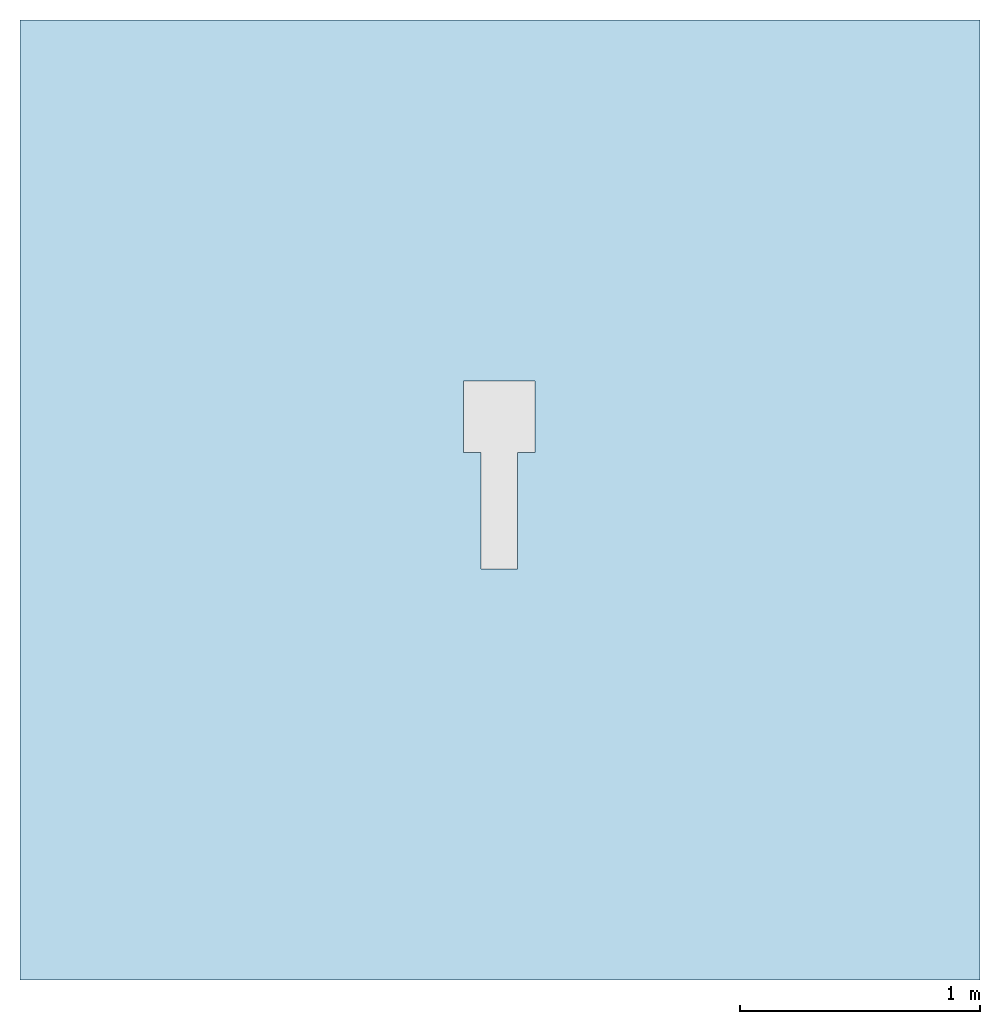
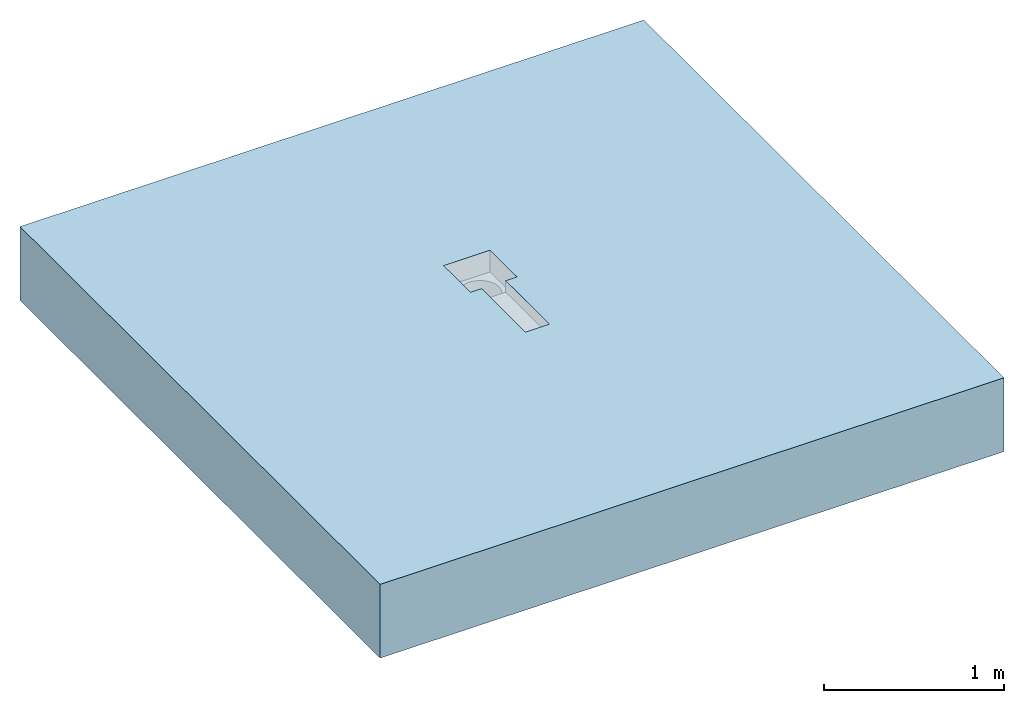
# One storey, incomplete: 1 slab, 1 opening.
"""IFC2X3 building model written with IfcOpenShell, lengths in millimetres."""

import ifcopenshell
import ifcopenshell.guid

model = None  # the IFC model being written
_history = None  # IfcOwnerHistory: only IFC2X3 demands one
_inside = {}  # id of a spatial element -> (the spatial element, [elements in it])
_under = {}  # id of a project, library or spatial element -> (it, [spatial elements below it])
_declared = {}  # id of a project -> (the project, [libraries it declares])
_typed = {}  # id of a type object -> (the type object, [elements of that type])
_made_of = {}  # id of a material, layer set ... -> (it, [elements and type objects made of it])


def new_model(schema):
    """Start an empty IFC model of exactly this schema.

    Asked for "IFC4X3", IfcOpenShell would pick the latest addendum, in which some entities
    have other attributes; the version numbers below select the first issue.
    IFC2X3 requires an IfcOwnerHistory on every rooted entity: one is made here for all.
    """
    global model, _history
    if schema == "IFC4X3":
        model = ifcopenshell.file(schema_version=(4, 3, 0, 0))
    else:
        model = ifcopenshell.file(schema=schema)
    _inside.clear()
    _under.clear()
    _declared.clear()
    _typed.clear()
    _made_of.clear()
    _history = None
    if model.schema == "IFC2X3":
        org = make("IfcOrganization", Name="unknown")
        user = make(
            "IfcPersonAndOrganization",
            ThePerson=make("IfcPerson", FamilyName="unknown"),
            TheOrganization=org,
        )
        app = make(
            "IfcApplication",
            ApplicationDeveloper=org,
            Version="unknown",
            ApplicationFullName="unknown",
            ApplicationIdentifier="unknown",
        )
        _history = make(
            "IfcOwnerHistory",
            OwningUser=user,
            OwningApplication=app,
            ChangeAction="ADDED",
            CreationDate=0,
        )
    return model


def make(cls, **values):
    """One entity of the class cls with the attributes given. An attribute that is None is left unset."""
    return model.create_entity(
        cls, **{name: value for name, value in values.items() if value is not None}
    )


def entity(cls, *values):
    """Any entity or typed value of the class cls, its attributes in the order of the schema. None: left unset."""
    e = model.create_entity(cls)
    for i, value in enumerate(values):
        if value is not None:
            e[i] = value
    return e


def rooted(cls, **values):
    """An entity with a GlobalId (a new one), such as an element, a storey or a relation."""
    return make(cls, GlobalId=ifcopenshell.guid.new(), OwnerHistory=_history, **values)


def si_unit(unit_type, name, prefix=None):
    """IfcSIUnit, for example si_unit("LENGTHUNIT", "METRE", prefix="MILLI")."""
    return make("IfcSIUnit", UnitType=unit_type, Prefix=prefix, Name=name)


def converted_unit(unit_type, name, factor, base, dimensions=None, offset=None):
    """IfcConversionBasedUnit, such as the inch: factor (a typed value) times the base unit."""
    return make(
        "IfcConversionBasedUnit"
        if offset is None
        else "IfcConversionBasedUnitWithOffset",
        ConversionOffset=offset,
        Dimensions=None
        if dimensions is None
        else entity("IfcDimensionalExponents", *dimensions),
        UnitType=unit_type,
        Name=name,
        ConversionFactor=make(
            "IfcMeasureWithUnit", ValueComponent=factor, UnitComponent=base
        ),
    )


def assignment(units):
    """IfcUnitAssignment: the units of a project."""
    return None if units is None else make("IfcUnitAssignment", Units=units)


def point(xyz):
    """IfcCartesianPoint."""
    return None if xyz is None else make("IfcCartesianPoint", Coordinates=xyz)


def direction(xyz):
    """IfcDirection."""
    return None if xyz is None else make("IfcDirection", DirectionRatios=xyz)


def frame(location, z_axis=None, x_axis=None):
    """IfcAxis2Placement3D, a coordinate frame: its origin and axes. An axis left out is left unset."""
    return make(
        "IfcAxis2Placement3D",
        Location=point(location),
        Axis=direction(z_axis),
        RefDirection=direction(x_axis),
    )


def frame_2d(location, x_axis=None):
    """IfcAxis2Placement2D, a coordinate frame in the plane: its origin and x axis."""
    return make(
        "IfcAxis2Placement2D", Location=point(location), RefDirection=direction(x_axis)
    )


def origin():
    """The frame at (0, 0, 0) with its axes left unset."""
    return frame((0.0, 0.0, 0.0))


def place(relative_to, where):
    """IfcLocalPlacement: puts the frame where relative to a parent placement (None: the world)."""
    return make(
        "IfcLocalPlacement", PlacementRelTo=relative_to, RelativePlacement=where
    )


def context(
    kind, dimensions, precision=None, world=None, true_north=None, identifier=None
):
    """IfcGeometricRepresentationContext, for example the 3D "Model" context."""
    return make(
        "IfcGeometricRepresentationContext",
        ContextIdentifier=identifier,
        ContextType=kind,
        CoordinateSpaceDimension=dimensions,
        Precision=precision,
        WorldCoordinateSystem=world,
        TrueNorth=true_north,
    )


def subcontext(parent, identifier, kind, view, scale=None):
    """IfcGeometricRepresentationSubContext, for example "Body" below "Model"."""
    return make(
        "IfcGeometricRepresentationSubContext",
        ContextIdentifier=identifier,
        ContextType=kind,
        ParentContext=parent,
        TargetScale=scale,
        TargetView=view,
    )


def project(units=None, contexts=None):
    """IfcProject with its units and contexts."""
    return rooted(
        "IfcProject",
        Name="project",
        RepresentationContexts=contexts,
        UnitsInContext=assignment(units),
    )


def spatial(cls, under=None, at=None, **own):
    """A site, building, storey or space (cls), placed at a placement, below another one or the project."""
    s = rooted(cls, ObjectPlacement=at, **own)
    if under is not None:
        _under.setdefault(under.id(), (under, []))[1].append(s)
    return s


def profile(cls, at=None, kind="AREA", **sizes):
    """A parametric profile (cls). Its sizes go by their IFC names, for example OverallWidth=200.0."""
    return make(cls, ProfileType=kind, Position=at, **sizes)


def rectangle(**sizes):
    """IfcRectangleProfileDef."""
    return profile("IfcRectangleProfileDef", **sizes)


def extrude(swept, where, along, depth):
    """IfcExtrudedAreaSolid: the profile swept, set in the frame where, extruded along a direction by depth."""
    return make(
        "IfcExtrudedAreaSolid",
        SweptArea=swept,
        Position=where,
        ExtrudedDirection=direction(along),
        Depth=depth,
    )


def faces_of(points, faces, orient=None, outer=None):
    """IfcFace entities. A face is a list of loops; a loop is a list of indices into points, from 0.

    orient and outer hold one flag for each loop. By default every Orientation is true, the
    first loop of a face is its IfcFaceOuterBound and the others are IfcFaceBound.
    """
    made = []
    for i, loops in enumerate(faces):
        bounds = []
        for j, loop in enumerate(loops):
            is_outer = j == 0 if outer is None else outer[i][j]
            bounds.append(
                make(
                    "IfcFaceOuterBound" if is_outer else "IfcFaceBound",
                    Bound=make("IfcPolyLoop", Polygon=[points[k] for k in loop]),
                    Orientation=True if orient is None else orient[i][j],
                )
            )
        made.append(make("IfcFace", Bounds=bounds))
    return made


def faceted_brep(points, faces, orient=None, outer=None, voids=None):
    """IfcFacetedBrep: a solid bounded by flat faces; with voids (closed shells), ...WithVoids."""
    shared = [point(p) for p in points]
    hull = make("IfcClosedShell", CfsFaces=faces_of(shared, faces, orient, outer))
    if voids is None:
        return make("IfcFacetedBrep", Outer=hull)
    return make(
        "IfcFacetedBrepWithVoids",
        Outer=hull,
        Voids=[
            make(cls, CfsFaces=faces_of(shared, fs, o, b)) for cls, fs, o, b in voids
        ],
    )


def shape(context_of_items, identifier, shape_type, items):
    """IfcShapeRepresentation: the items that make up one representation, for example the "Body"."""
    return make(
        "IfcShapeRepresentation",
        ContextOfItems=context_of_items,
        RepresentationIdentifier=identifier,
        RepresentationType=shape_type,
        Items=items,
    )


def material(Name=None, Category=None):
    """IfcMaterial."""
    return make("IfcMaterial", Name=Name, Category=Category)


def layer(
    of_material, thickness, ventilated=None, Name=None, Category=None, Priority=None
):
    """IfcMaterialLayer: one layer of a wall or slab, of a material (None: an air gap)."""
    return make(
        "IfcMaterialLayer",
        Material=of_material,
        LayerThickness=thickness,
        IsVentilated=ventilated,
        Name=Name,
        Category=Category,
        Priority=Priority,
    )


def layer_set(layers, Name=None):
    """IfcMaterialLayerSet."""
    return make("IfcMaterialLayerSet", MaterialLayers=layers, LayerSetName=Name)


def layer_usage(for_layer_set, set_direction, sense, offset, extent=None):
    """IfcMaterialLayerSetUsage: how a layer set lies in its element."""
    return make(
        "IfcMaterialLayerSetUsage",
        ForLayerSet=for_layer_set,
        LayerSetDirection=set_direction,
        DirectionSense=sense,
        OffsetFromReferenceLine=offset,
        ReferenceExtent=extent,
    )


def made_of(thing, what):
    """Note that an element or type object is made of a material, layer set ...; save() writes the relation."""
    if what is not None:
        _made_of.setdefault(what.id(), (what, []))[1].append(thing)
    return thing


def element(
    cls,
    number,
    at=None,
    inside=None,
    cuts=None,
    type_object=None,
    material=None,
    context=None,
    identifier="Body",
    shape_type=None,
    held_by="IfcProductDefinitionShape",
    body=None,
    shapes=None,
    **own,
):
    """One element of the class cls, such as IfcWall. Its Tag is "e" and its number.

    at: its placement. inside: the storey or other place that contains it. cuts: it is an
    opening in that element (IfcRelVoidsElement). A single representation is given by context,
    identifier, shape_type and body (its items); several are given by shapes. held_by: the class
    of the entity that holds the representations. save() writes the other relations.
    """
    e = rooted(cls, Tag="e%d" % number, ObjectPlacement=at, **own)
    if body is not None:
        shapes = [shape(context, identifier, shape_type, body)]
    if shapes is not None:
        e.Representation = make(held_by, Representations=shapes)
    if inside is not None:
        _inside.setdefault(inside.id(), (inside, []))[1].append(e)
    if cuts is not None:
        rooted(
            "IfcRelVoidsElement", RelatingBuildingElement=cuts, RelatedOpeningElement=e
        )
    if type_object is not None:
        _typed.setdefault(type_object.id(), (type_object, []))[1].append(e)
    return made_of(e, material)


def aggregate(whole, parts):
    """IfcRelAggregates: a whole, such as a stair, and the parts it consists of."""
    return rooted("IfcRelAggregates", RelatingObject=whole, RelatedObjects=parts)


def save(model, path):
    """Write the relations noted so far, then the file.

    IfcRelAggregates (storeys below a building ...), IfcRelContainedInSpatialStructure (elements
    in a storey), IfcRelDefinesByType, IfcRelAssociatesMaterial and IfcRelDeclares: one each for
    every whole, place, type object, material and project.
    """
    for whole, parts in _under.values():
        aggregate(whole, parts)
    for where, things in _inside.values():
        rooted(
            "IfcRelContainedInSpatialStructure",
            RelatedElements=things,
            RelatingStructure=where,
        )
    for kind, things in _typed.values():
        rooted("IfcRelDefinesByType", RelatedObjects=things, RelatingType=kind)
    for what, things in _made_of.values():
        rooted("IfcRelAssociatesMaterial", RelatedObjects=things, RelatingMaterial=what)
    for by, libraries in _declared.values():
        rooted("IfcRelDeclares", RelatingContext=by, RelatedDefinitions=libraries)
    model.write(path)


model = new_model("IFC2X3")

# Units and contexts
model_context = context("Model", 3, precision=1e-06, world=origin(), true_north=direction((2.0, 6.12303176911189e-17, 1.0)))
context_of_model = context(None, 3, precision=1e-06, world=origin(), true_north=direction((2.0, 6.12303176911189e-17, 1.0)))
body_context = subcontext(model_context, "Body", "Model", "MODEL_VIEW")
ifc_project = project(units=[si_unit("LENGTHUNIT", "METRE", prefix="MILLI"), si_unit("AREAUNIT", "SQUARE_METRE", prefix="MILLI"), si_unit("VOLUMEUNIT", "CUBIC_METRE", prefix="MILLI"), converted_unit("PLANEANGLEUNIT", "DEGREE", entity("IfcRatioMeasure", 0.0174532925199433), si_unit("PLANEANGLEUNIT", "RADIAN"), dimensions=[0, 0, 0, 0, 0, 0, 0]), si_unit("TIMEUNIT", "SECOND")], contexts=[model_context, context_of_model])

# Site, building, storey
site_placement = place(None, origin())
site = spatial("IfcSite", under=ifc_project, at=site_placement, Name="Default", CompositionType="ELEMENT")
building_placement = place(site_placement, origin())
building = spatial("IfcBuilding", under=site, at=building_placement, CompositionType="ELEMENT")
storey_placement = place(building_placement, origin())
storey = spatial("IfcBuildingStorey", under=building, at=storey_placement, Name="Level 1", CompositionType="ELEMENT", Elevation=0.0)

# Slab, opening
ifc_material = material(Name="Concrete, Broom Finish")
ifc_layer = layer(ifc_material, 500.0)
ifc_layer_set = layer_set([ifc_layer], Name="Floor:Generic Floor - 500mm")
ifc_layer_usage = layer_usage(ifc_layer_set, "AXIS3", "POSITIVE", 0.0)
slab_placement = place(storey_placement, origin())
slab = element("IfcSlab", 1, at=slab_placement, inside=storey, material=ifc_layer_usage, Name="Floor:Generic Floor - 500mm", ObjectType="Floor:Generic Floor - 500mm", PredefinedType="FLOOR", context=body_context, shape_type="SweptSolid", body=[
    extrude(rectangle(XDim=4000.0, YDim=4000.0, at=frame_2d((0.0, 0.0), x_axis=(-1.0, 0.0))), frame((-419.114478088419, -735.273497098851, 0.0), z_axis=(0.0, 0.0, -1.0), x_axis=(-1.0, 0.0, 0.0)), (0.0, 0.0, 1.0), 500.0),
])
opening_placement = place(slab_placement, frame((-571.042058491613, -1023.16245801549, -378.300000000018)))
element("IfcOpeningElement", 2, at=opening_placement, cuts=slab, ObjectType="Recess", context=body_context, shape_type="Brep", body=[
    faceted_brep([(225.499999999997, 0.0, 378.300000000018), (225.499999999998, 0.0, 300.500000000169), (72.5000000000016, 0.0, 300.500000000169), (72.5000000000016, 0.0, 378.300000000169), (225.499999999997, 486.0, 378.300000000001), (225.499999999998, 486.0, 300.500000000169), (72.5000000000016, 486.0, 300.500000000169), (72.5000000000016, 486.0, 378.300000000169), (0.0, 784.0, 378.30000000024), (298.0, 784.0, 378.299999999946), (298.0, 486.0, 378.299999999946), (0.0, 486.0, 378.30000000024), (33.0889008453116, 666.058285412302, 232.050000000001), (45.076951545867, 695.0, 232.050000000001), (0.0, 784.0, 232.050000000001), (64.1471862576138, 719.852813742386, 232.050000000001), (29.0, 635.0, 232.050000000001), (117.941714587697, 750.911099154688, 232.050000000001), (149.0, 755.0, 232.050000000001), (89.0, 738.923048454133, 232.050000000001), (298.0, 784.0, 232.050000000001), (33.0889008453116, 603.941714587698, 232.050000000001), (0.0, 486.0, 232.050000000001), (45.0769515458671, 575.0, 232.050000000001), (64.1471862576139, 550.147186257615, 232.050000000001), (117.941714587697, 519.088900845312, 232.050000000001), (89.0, 531.076951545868, 232.050000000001), (149.0, 515.0, 232.050000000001), (180.058285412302, 750.911099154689, 232.050000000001), (209.0, 738.923048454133, 232.050000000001), (233.852813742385, 719.852813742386, 232.050000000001), (264.911099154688, 666.058285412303, 232.050000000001), (252.923048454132, 695.0, 232.050000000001), (269.0, 635.0, 232.050000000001), (298.0, 486.0, 232.050000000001), (209.0, 531.076951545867, 232.050000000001), (180.058285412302, 519.088900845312, 232.050000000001), (264.911099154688, 603.941714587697, 232.050000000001), (252.923048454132, 575.0, 232.050000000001), (233.852813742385, 550.147186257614, 232.050000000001), (180.058285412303, 750.911099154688, 0.0), (149.0, 755.0, 0.0), (233.852813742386, 719.852813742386, 0.0), (209.0, 738.923048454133, 0.0), (264.911099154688, 666.058285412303, 0.0), (252.923048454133, 695.0, 0.0), (45.0769515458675, 695.0, 0.0), (29.0, 635.0, 0.0), (64.1471862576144, 719.852813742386, 0.0), (89.0, 738.923048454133, 0.0), (117.941714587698, 750.911099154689, 0.0), (33.0889008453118, 666.058285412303, 0.0), (45.0769515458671, 575.0, 0.0), (264.911099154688, 603.941714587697, 0.0), (64.1471862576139, 550.147186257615, 0.0), (252.923048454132, 575.0, 0.0), (233.852813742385, 550.147186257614, 0.0), (180.058285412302, 519.088900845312, 0.0), (209.0, 531.076951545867, 0.0), (33.0889008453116, 603.941714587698, 0.0), (117.941714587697, 519.088900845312, 0.0), (149.0, 515.0, 0.0), (89.0, 531.076951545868, 0.0), (269.0, 635.0, 0.0)], [[[0, 1, 2]], [[2, 3, 0]], [[1, 4, 5]], [[4, 1, 0]], [[1, 5, 6]], [[6, 2, 1]], [[2, 6, 7]], [[7, 3, 2]], [[8, 9, 4]], [[9, 10, 4]], [[7, 11, 8]], [[0, 3, 7]], [[7, 4, 0]], [[8, 4, 7]], [[12, 13, 14]], [[15, 14, 13]], [[16, 12, 14]], [[14, 17, 18]], [[14, 15, 19]], [[14, 19, 17]], [[18, 20, 14]], [[21, 16, 22]], [[14, 22, 16]], [[23, 21, 22]], [[22, 24, 23]], [[22, 25, 26]], [[22, 26, 24]], [[27, 25, 22]], [[20, 28, 29]], [[20, 29, 30]], [[31, 20, 32]], [[30, 32, 20]], [[20, 31, 33]], [[33, 34, 20]], [[20, 18, 28]], [[34, 35, 36]], [[34, 36, 27]], [[34, 37, 38]], [[35, 34, 39]], [[38, 39, 34]], [[34, 33, 37]], [[22, 34, 27]], [[8, 14, 20]], [[20, 9, 8]], [[9, 20, 34]], [[34, 10, 9]], [[22, 5, 34]], [[10, 34, 5]], [[11, 6, 22]], [[5, 22, 6]], [[5, 4, 10]], [[6, 11, 7]], [[11, 22, 14]], [[14, 8, 11]], [[40, 41, 42]], [[43, 40, 42]], [[44, 45, 42]], [[46, 42, 41]], [[44, 42, 47]], [[48, 46, 49]], [[41, 50, 49]], [[51, 47, 46]], [[46, 41, 49]], [[46, 47, 42]], [[47, 52, 44]], [[53, 44, 54]], [[55, 53, 56]], [[53, 57, 58]], [[56, 53, 58]], [[57, 53, 54]], [[44, 52, 54]], [[52, 47, 59]], [[60, 61, 62]], [[54, 62, 61]], [[57, 54, 61]], [[44, 53, 63]], [[52, 59, 21]], [[52, 23, 54]], [[60, 62, 26]], [[24, 62, 54]], [[61, 60, 25]], [[47, 16, 59]], [[16, 21, 59]], [[21, 23, 52]], [[23, 24, 54]], [[62, 24, 26]], [[26, 25, 60]], [[25, 27, 61]], [[58, 57, 36]], [[58, 35, 56]], [[53, 55, 38]], [[39, 55, 56]], [[63, 53, 37]], [[27, 36, 57]], [[36, 35, 58]], [[35, 39, 56]], [[39, 38, 55]], [[53, 38, 37]], [[37, 33, 63]], [[61, 27, 57]], [[31, 44, 63]], [[40, 43, 29]], [[42, 30, 43]], [[40, 28, 41]], [[33, 31, 63]], [[45, 44, 31]], [[32, 45, 31]], [[32, 42, 45]], [[32, 30, 42]], [[43, 30, 29]], [[29, 28, 40]], [[28, 18, 41]], [[49, 50, 17]], [[49, 19, 48]], [[51, 46, 13]], [[15, 46, 48]], [[47, 51, 12]], [[18, 17, 50]], [[17, 19, 49]], [[19, 15, 48]], [[15, 13, 46]], [[51, 13, 12]], [[12, 16, 47]], [[41, 18, 50]]]),
])

save(model, "model.ifc")
